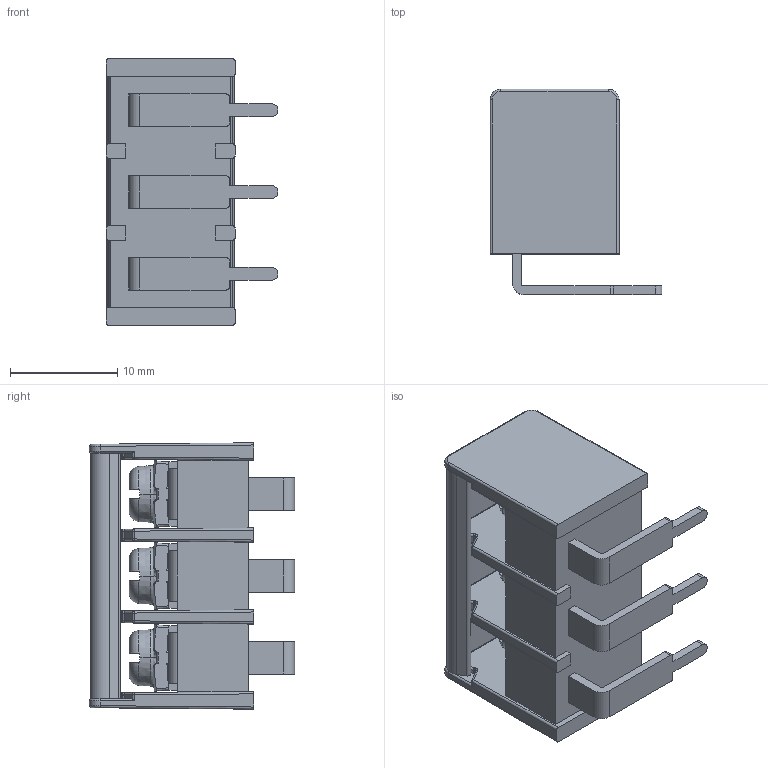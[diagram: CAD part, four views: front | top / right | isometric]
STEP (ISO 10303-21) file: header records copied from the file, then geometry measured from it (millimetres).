
FILE_DESCRIPTION((''),'2;1');
FILE_NAME('3PIN','2021-04-15T',('hanke'),(''),'CREO PARAMETRIC BY PTC INC, 2016260','CREO PARAMETRIC BY PTC INC, 2016260','');
FILE_SCHEMA(('CONFIG_CONTROL_DESIGN'));
Length unit declared in the file: millimetre
Products named in the file (1): 3PIN
Bounding box: 16 x 19.1 x 24.78 mm (x, y, z)
Volume: 2990 mm3; surface area: 3541.6 mm2
Topology: 1 solids, 4 shells, 854 faces, 2476 edges, 1567 vertices
Faces by surface type: plane 422, cylinder 202, torus 80, bspline 78, sphere 54, cone 18
Entity records: 35101 total; most frequent: CARTESIAN_POINT 13460, ORIENTED_EDGE 4916, DIRECTION 4140, EDGE_CURVE 2458, VERTEX_POINT 1567, AXIS2_PLACEMENT_3D 1472, VECTOR 1196, LINE 1196
